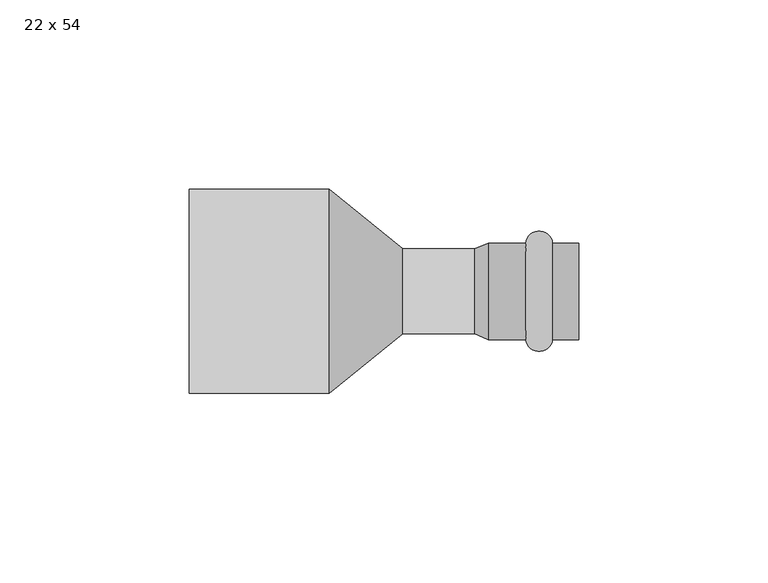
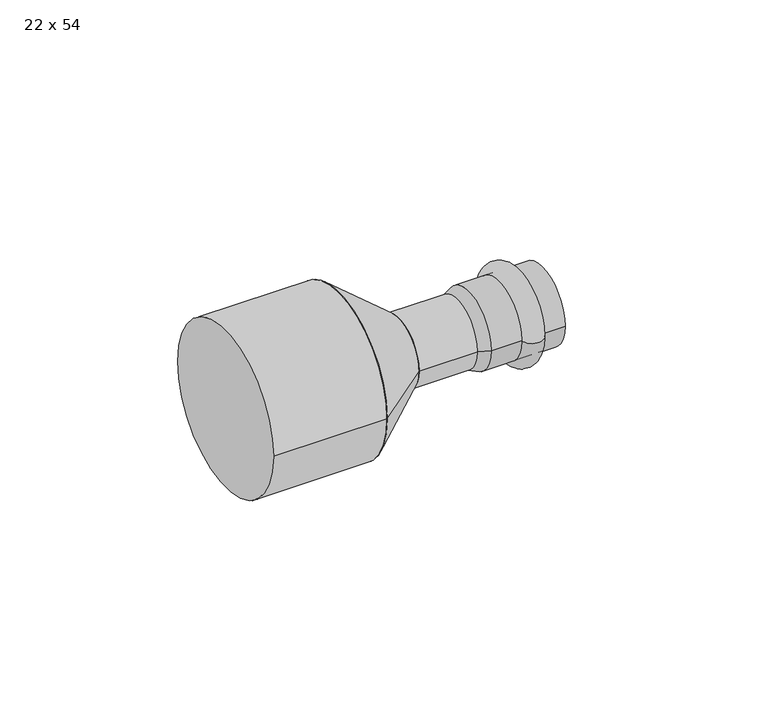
"""IFC4 building model written with IfcOpenShell, lengths in millimetres: pipe fitting geometry, РЕХАУ_Пресс Вставка переходная : 22 x 54."""

from ifc_helpers import new_model, si_unit, point, frame, origin, origin_2d, place, context, project, spatial, polyline, circle_curve, ellipse_curve, trimmed, segment, composite_curve, outline, extrude, source, transform, mapped, element, save
from ifc_brep_helpers import plane_surface, cylinder_surface, revolved_surface, advanced_brep


def pipe_fitting_22_x_54_ad3cc637(model_context):
    return source(origin(), model_context, "Body", "SolidModel", [
        advanced_brep(
        [(96.0, 12.75, 0.0), (96.0, -12.75, 0.0), (89.0, -12.75, 0.0), (89.0, 12.75, 0.0)],
        [
            (0, 1, circle_curve(frame((96.0, 0.0, 0.0), z_axis=(1.0, 0.0, 0.0), x_axis=(0.0, -1.0, 0.0)), 12.75)),
            (1, 2),
            (2, 3, circle_curve(frame((89.0, 0.0, 0.0), z_axis=(-1.0, 0.0, 0.0), x_axis=(0.0, -1.0, 0.0)), 12.75)),
            (3, 0),
            (1, 0, circle_curve(frame((96.0, 0.0, 0.0), z_axis=(1.0, 0.0, 0.0), x_axis=(0.0, -1.0, 0.0)), 12.75)),
            (3, 2, circle_curve(frame((89.0, 0.0, 0.0), z_axis=(-1.0, 0.0, 0.0), x_axis=(0.0, -1.0, 0.0)), 12.75)),
            (2, 1, ellipse_curve(frame((92.5, -12.75, 0.0), z_axis=(0.0, 0.0, 1.0), x_axis=(1.0, 0.0, 0.0)), 3.5, 3.1)),
            (0, 3, ellipse_curve(frame((92.5, 12.75, 0.0), z_axis=(0.0, 0.0, 1.0), x_axis=(1.0, 0.0, 0.0)), 3.5, 3.1)),
        ],
        [
            revolved_surface(polyline([(89.0, -12.75, 0.0), (96.0, -12.75, 0.0)]), (76.0, 0.0, 0.0), (-1.0, 0.0, 0.0)),
            revolved_surface(trimmed(ellipse_curve(frame((92.5, -12.75, 0.0), z_axis=(0.0, 0.0, -1.0), x_axis=(1.0, 0.0, 0.0)), 3.5, 3.1), [point((96.0, -12.75, 0.0))], [point((89.0, -12.75, 0.0))], True, "CARTESIAN"), (76.0, 0.0, 0.0), (-1.0, 0.0, 0.0)),
        ],
        [
            (0, [[1, 2, 3, 4]]),
            (0, [[5, -4, 6, -2]]),
            (1, [[-3, 7, -1, 8]]),
            (1, [[-6, -8, -5, -7]]),
        ],
    ),
        advanced_brep(
        [(75.4662215, 11.25, 0.0), (75.4662215, -11.25, 0.0), (79.0, -12.75, 0.0), (79.0, 12.75, 0.0), (103.0, 11.25, 0.0), (103.0, -11.25, 0.0), (103.0, 12.75, 0.0), (103.0, -12.75, 0.0)],
        [
            (0, 1, circle_curve(frame((75.4662215, 0.0, 0.0), z_axis=(1.0, 0.0, 0.0), x_axis=(0.0, -1.0, 0.0)), 11.25)),
            (1, 2),
            (2, 3, circle_curve(frame((79.0, 0.0, 0.0), z_axis=(-1.0, 0.0, 0.0), x_axis=(0.0, -1.0, 0.0)), 12.75)),
            (3, 0),
            (1, 0, circle_curve(frame((75.4662215, 0.0, 0.0), z_axis=(1.0, 0.0, 0.0), x_axis=(0.0, -1.0, 0.0)), 11.25)),
            (3, 2, circle_curve(frame((79.0, 0.0, 0.0), z_axis=(-1.0, 0.0, 0.0), x_axis=(0.0, -1.0, 0.0)), 12.75)),
            (4, 5, circle_curve(frame((103.0, 0.0, 0.0), z_axis=(1.0, 0.0, 0.0), x_axis=(0.0, -1.0, 0.0)), 11.25)),
            (5, 1),
            (0, 4),
            (5, 4, circle_curve(frame((103.0, 0.0, 0.0), z_axis=(1.0, 0.0, 0.0), x_axis=(0.0, -1.0, 0.0)), 11.25)),
            (6, 7, circle_curve(frame((103.0, 0.0, 0.0), z_axis=(1.0, 0.0, 0.0), x_axis=(0.0, -1.0, 0.0)), 12.75)),
            (7, 5),
            (4, 6),
            (7, 6, circle_curve(frame((103.0, 0.0, 0.0), z_axis=(1.0, 0.0, 0.0), x_axis=(0.0, -1.0, 0.0)), 12.75)),
            (2, 7),
            (6, 3),
        ],
        [
            revolved_surface(polyline([(79.0, -12.75, 0.0), (75.4662215, -11.25, 0.0)]), (76.0, 0.0, 0.0), (-1.0, 0.0, 0.0)),
            revolved_surface(polyline([(75.4662215, -11.25, 0.0), (103.0, -11.25, 0.0)]), (76.0, 0.0, 0.0), (-1.0, 0.0, 0.0)),
            plane_surface(frame((103.0, 0.0, 0.0), z_axis=(1.0, 0.0, 0.0), x_axis=(0.0, -1.0, 0.0))),
            cylinder_surface(frame((76.0, 0.0, 0.0), z_axis=(-1.0, 0.0, 0.0), x_axis=(0.0, -1.0, 0.0)), 12.75),
        ],
        [
            (0, [[1, 2, 3, 4]]),
            (0, [[5, -4, 6, -2]]),
            (1, [[7, 8, -1, 9]]),
            (1, [[10, -9, -5, -8]]),
            (2, [[11, 12, -7, 13]]),
            (2, [[14, -13, -10, -12]]),
            (3, [[-3, 15, -11, 16]]),
            (3, [[-6, -16, -14, -15]]),
        ],
    ),
        extrude(outline(composite_curve([segment(trimmed(circle_curve(origin_2d(), 11.25), [point((-11.25, 0.0))], [point((11.25, 0.0))], False, "CARTESIAN"), True, "CONTINUOUS"), segment(trimmed(circle_curve(origin_2d(), 11.25), [point((11.25, 0.0))], [point((-11.25, 0.0))], False, "CARTESIAN"), True, "CONTINUOUS")], self_intersect=False)), frame((56.45, 0.0, 0.0), z_axis=(1.0, 0.0, 0.0), x_axis=(0.0, 1.0, 0.0)), (0.0, 0.0, 1.0), 22.55),
        advanced_brep(
        [(56.45, -11.25, 0.0), (56.45, 11.25, 0.0), (37.0, -27.0, 0.0), (37.0, 27.0, 0.0)],
        [
            (0, 1, circle_curve(frame((56.45, 0.0, 0.0), z_axis=(1.0, 0.0, 0.0), x_axis=(0.0, -1.0, 0.0)), 11.25)),
            (1, 0, circle_curve(frame((56.45, 0.0, 0.0), z_axis=(1.0, 0.0, 0.0), x_axis=(0.0, 1.0, 0.0)), 11.25)),
            (2, 3, circle_curve(frame((37.0, 0.0, 0.0), z_axis=(-1.0, 0.0, 0.0), x_axis=(0.0, 1.0, 0.0)), 27.0)),
            (3, 2, circle_curve(frame((37.0, 0.0, 0.0), z_axis=(-1.0, 0.0, 0.0), x_axis=(0.0, -1.0, 0.0)), 27.0)),
            (3, 1),
            (0, 2),
        ],
        [
            plane_surface(frame((56.45, 0.0, 0.0), z_axis=(1.0, 0.0, 0.0), x_axis=(0.0, 0.0, -1.0))),
            plane_surface(frame((37.0, 0.0, 0.0), z_axis=(-1.0, 0.0, 0.0), x_axis=(0.0, 0.0, -1.0))),
            revolved_surface(polyline([(56.45, -11.249999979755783, 0.0), (37.0, -27.0, 0.0)]), (70.3428571, 0.0, 0.0), (-1.0, 0.0, 0.0)),
            revolved_surface(polyline([(56.45, 11.249999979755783, 0.0), (37.0, 27.0, 0.0)]), (70.3428571, 0.0, 0.0), (-1.0, 0.0, 0.0)),
        ],
        [
            (0, [[1, 2]]),
            (1, [[3, 4]]),
            (2, [[-4, 5, -1, 6]]),
            (3, [[-3, -6, -2, -5]]),
        ],
    ),
        extrude(outline(composite_curve([segment(trimmed(circle_curve(origin_2d(), 27.0), [point((-27.0, 0.0))], [point((27.0, 0.0))], False, "CARTESIAN"), True, "CONTINUOUS"), segment(trimmed(circle_curve(origin_2d(), 27.0), [point((27.0, 0.0))], [point((-27.0, 0.0))], False, "CARTESIAN"), True, "CONTINUOUS")], self_intersect=False)), frame((0.0, 0.0, 0.0), z_axis=(1.0, 0.0, 0.0), x_axis=(0.0, 1.0, 0.0)), (0.0, 0.0, 1.0), 37.0),
    ])


if __name__ == "__main__":
    model = new_model("IFC4")
    model_context = context("Model", 3, world=origin())
    ifc_project = project(units=[si_unit("LENGTHUNIT", "METRE", prefix="MILLI")], contexts=[model_context])
    site = spatial("IfcSite", under=ifc_project)
    building = spatial("IfcBuilding", under=site)
    placement = place(None, origin())
    pipe_fitting_22_x_54_shape = pipe_fitting_22_x_54_ad3cc637(model_context)
    element("IfcPipeFitting", 1, ObjectType="РЕХАУ_Пресс Вставка переходная : 22 x 54", at=placement, inside=building, context=model_context, shape_type="MappedRepresentation", body=[
        mapped(pipe_fitting_22_x_54_shape, transform((0.0, 0.0, 0.0), x_axis=(1.0, 0.0, 0.0), y_axis=(0.0, 1.0, 0.0), z_axis=(0.0, 0.0, 1.0))),
    ])
    save(model, "model.ifc")
